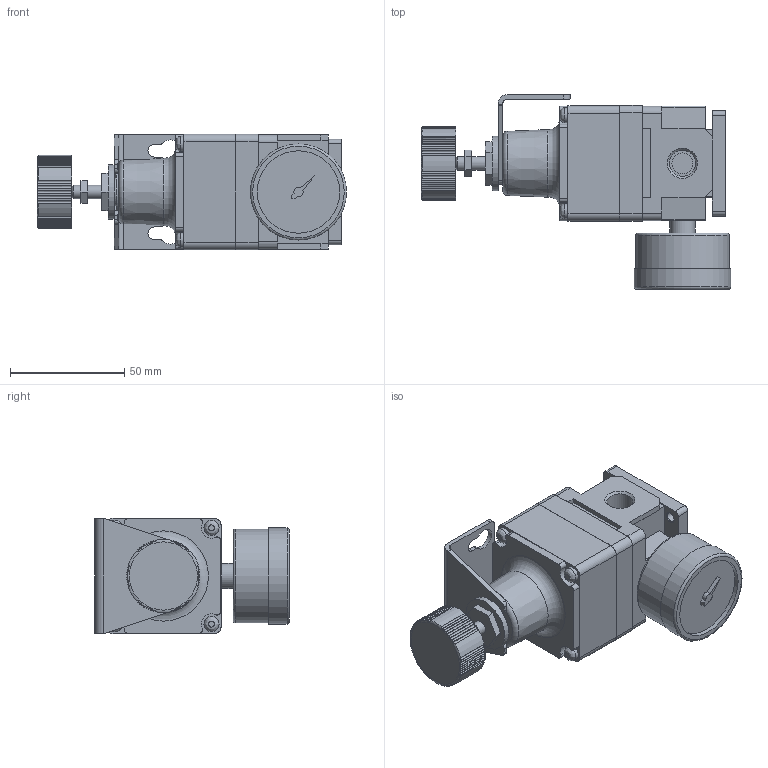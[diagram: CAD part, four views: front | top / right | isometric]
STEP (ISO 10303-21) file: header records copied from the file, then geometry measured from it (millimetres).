
FILE_DESCRIPTION( ( 'STEP AP214' ), '1' );
FILE_NAME( 'C:/Users/emc02044/Desktop/KKP EA EPR/EPR3000-02H4.stp', '2026-08-05T04:58:00', ( 'License CC BY-ND 4.0' ), ( 'CADENAS' ), ' ', 'PARTsolutions', ' ' );
FILE_SCHEMA( ( 'AUTOMOTIVE_DESIGN { 1 0 10303 214 1 1 1 1 }' ) );
Length unit declared in the file: millimetre
Products named in the file (3): EPR3000-02H4; _EPR3000-02H4_EPR_body; _EPR3000-LB
Assembly tree (2 placements, depth 2):
  EPR3000-02H4
    _EPR3000-02H4_EPR_body
    _EPR3000-LB
Bounding box: 135 x 85 x 50.5 mm (x, y, z)
Volume: 227410.6 mm3; surface area: 41835.7 mm2
Topology: 2 solids, 3 shells, 348 faces, 909 edges, 597 vertices
Faces by surface type: cylinder 191, plane 132, cone 16, torus 5, bspline 4
Full cylindrical faces by diameter (mm): 2.4 x4, 4.134 x4, 6 x2, 6.6 x4, 8.566 x2, 9.157 x2, 11 x1, 11.445 x2, 12 x1, 23.8 x1, 36 x1, 41 x1, 42 x1
Entity records: 13934 total; most frequent: CARTESIAN_POINT 2543, DIRECTION 1834, ORIENTED_EDGE 1706, EDGE_CURVE 853, AXIS2_PLACEMENT_3D 695, VERTEX_POINT 592, LINE 444, VECTOR 444
